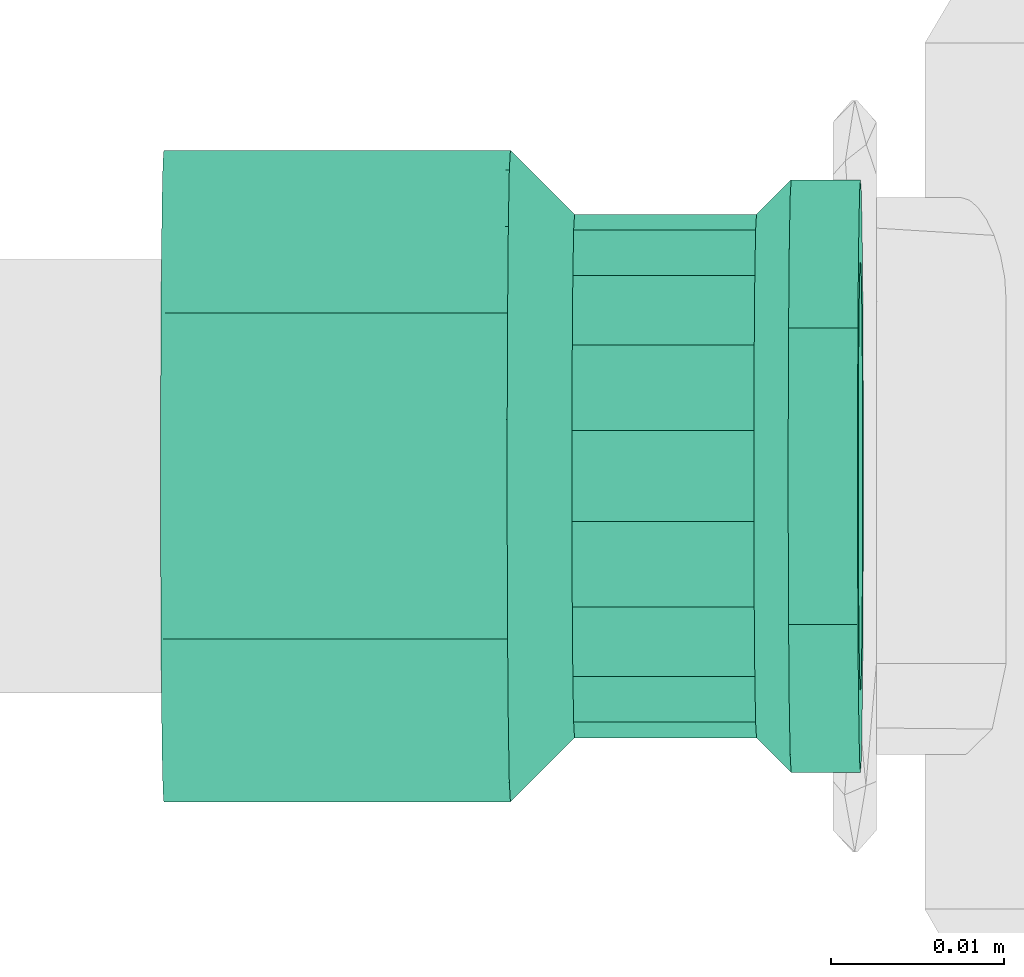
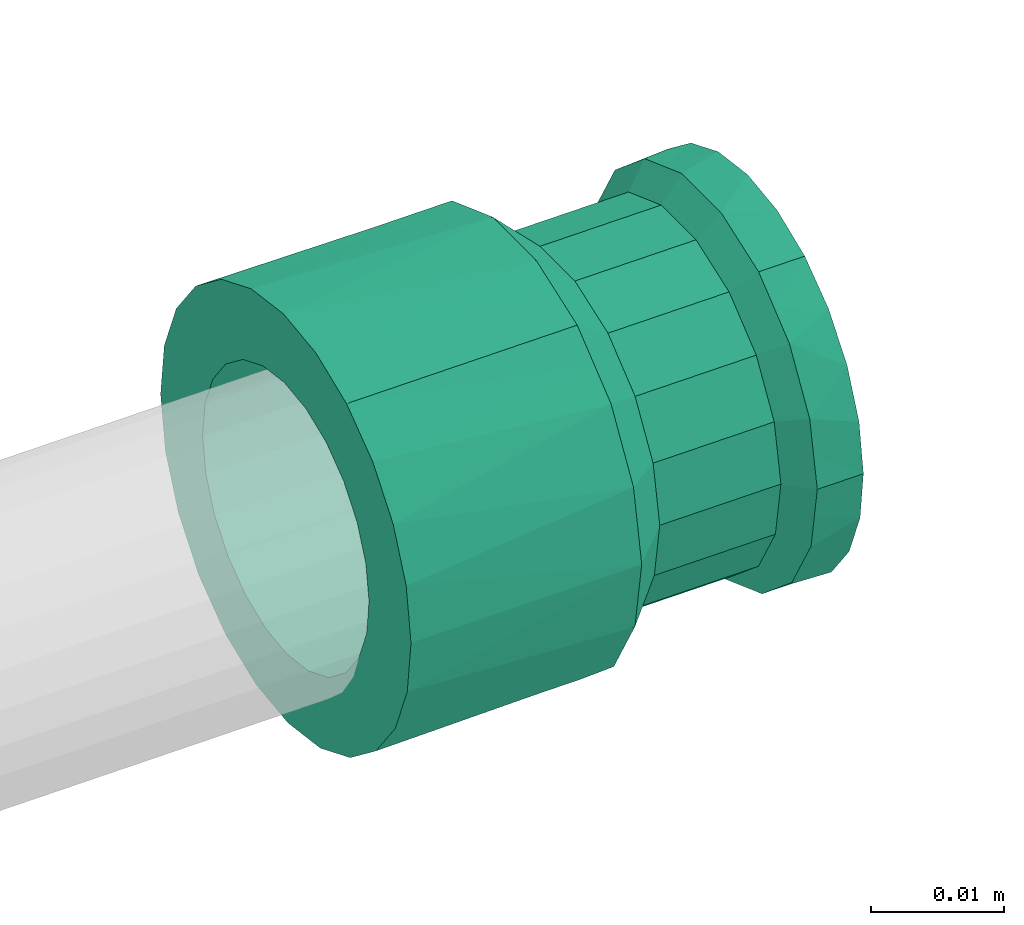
# One storey, part 389 of 589: 1 flow fitting.
"""IFC2X3 building model written with IfcOpenShell, lengths in millimetres."""

from ifc_helpers import new_model, entity, si_unit, converted_unit, derived_unit, direction, frame, origin, place, context, subcontext, project, spatial, faceted_brep, source, transform, mapped, material, type_object, type_shapes, element, save


model = new_model("IFC2X3")

# Units and contexts
model_context = context("Model", 3, precision=0.01, world=origin(), true_north=direction((6.123031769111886e-17, 1.0)))
body_context = subcontext(model_context, "Body", "Model", "MODEL_VIEW")
ifc_project = project(units=[si_unit("LENGTHUNIT", "METRE", prefix="MILLI"), si_unit("AREAUNIT", "SQUARE_METRE"), si_unit("VOLUMEUNIT", "CUBIC_METRE"), converted_unit("PLANEANGLEUNIT", "DEGREE", entity("IfcRatioMeasure", 0.017453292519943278), si_unit("PLANEANGLEUNIT", "RADIAN"), dimensions=[0, 0, 0, 0, 0, 0, 0]), si_unit("MASSUNIT", "GRAM", prefix="KILO"), derived_unit("MASSDENSITYUNIT", [(si_unit("MASSUNIT", "GRAM", prefix="KILO"), 1), (si_unit("LENGTHUNIT", "METRE"), -3)]), derived_unit("IONCONCENTRATIONUNIT", [(si_unit("MASSUNIT", "GRAM", prefix="KILO"), 1), (si_unit("LENGTHUNIT", "METRE"), -3)]), derived_unit("MOMENTOFINERTIAUNIT", [(si_unit("LENGTHUNIT", "METRE"), 4)]), si_unit("TIMEUNIT", "SECOND"), si_unit("FREQUENCYUNIT", "HERTZ"), si_unit("THERMODYNAMICTEMPERATUREUNIT", "DEGREE_CELSIUS"), derived_unit("THERMALTRANSMITTANCEUNIT", [(si_unit("MASSUNIT", "GRAM", prefix="KILO"), 1), (si_unit("THERMODYNAMICTEMPERATUREUNIT", "KELVIN"), -1), (si_unit("TIMEUNIT", "SECOND"), -3)]), derived_unit("THERMALCONDUCTANCEUNIT", [(si_unit("MASSUNIT", "GRAM", prefix="KILO"), 1), (si_unit("THERMODYNAMICTEMPERATUREUNIT", "KELVIN"), -1), (si_unit("TIMEUNIT", "SECOND"), -3), (si_unit("LENGTHUNIT", "METRE"), 1)]), derived_unit("VOLUMETRICFLOWRATEUNIT", [(si_unit("LENGTHUNIT", "METRE"), 3), (si_unit("TIMEUNIT", "SECOND"), -1)]), derived_unit("MASSFLOWRATEUNIT", [(si_unit("MASSUNIT", "GRAM", prefix="KILO"), 1), (si_unit("TIMEUNIT", "SECOND"), -1)]), derived_unit("ROTATIONALFREQUENCYUNIT", [(si_unit("TIMEUNIT", "SECOND"), -1)]), si_unit("ELECTRICCURRENTUNIT", "AMPERE"), si_unit("ELECTRICVOLTAGEUNIT", "VOLT"), si_unit("POWERUNIT", "WATT"), si_unit("FORCEUNIT", "NEWTON", prefix="KILO"), si_unit("ILLUMINANCEUNIT", "LUX"), si_unit("LUMINOUSFLUXUNIT", "LUMEN"), si_unit("LUMINOUSINTENSITYUNIT", "CANDELA"), derived_unit("USERDEFINED", [(si_unit("MASSUNIT", "GRAM", prefix="KILO"), -1), (si_unit("LENGTHUNIT", "METRE"), -2), (si_unit("TIMEUNIT", "SECOND"), 3), (si_unit("LUMINOUSFLUXUNIT", "LUMEN"), 1)]), derived_unit("USERDEFINED", [(si_unit("MASSUNIT", "GRAM", prefix="KILO"), 1), (si_unit("TIMEUNIT", "SECOND"), -3), (si_unit("LENGTHUNIT", "METRE"), 3), (si_unit("ELECTRICCURRENTUNIT", "AMPERE"), -2)]), derived_unit("SOUNDPOWERUNIT", [(si_unit("MASSUNIT", "GRAM", prefix="KILO"), 1), (si_unit("TIMEUNIT", "SECOND"), -3), (si_unit("LENGTHUNIT", "METRE"), 2)]), derived_unit("SOUNDPRESSUREUNIT", [(si_unit("MASSUNIT", "GRAM", prefix="KILO"), 1), (si_unit("LENGTHUNIT", "METRE"), -1), (si_unit("TIMEUNIT", "SECOND"), -2)]), derived_unit("LINEARVELOCITYUNIT", [(si_unit("LENGTHUNIT", "METRE"), 1), (si_unit("TIMEUNIT", "SECOND"), -1)]), si_unit("PRESSUREUNIT", "PASCAL"), derived_unit("USERDEFINED", [(si_unit("MASSUNIT", "GRAM", prefix="KILO"), 1), (si_unit("LENGTHUNIT", "METRE"), -2), (si_unit("TIMEUNIT", "SECOND"), -2)]), derived_unit("LINEARFORCEUNIT", [(si_unit("MASSUNIT", "GRAM", prefix="KILO"), 1), (si_unit("TIMEUNIT", "SECOND"), -2)]), derived_unit("PLANARFORCEUNIT", [(si_unit("MASSUNIT", "GRAM", prefix="KILO"), 1), (si_unit("LENGTHUNIT", "METRE"), -1), (si_unit("TIMEUNIT", "SECOND"), -2)]), derived_unit("SPECIFICHEATCAPACITYUNIT", [(si_unit("THERMODYNAMICTEMPERATUREUNIT", "KELVIN"), -1), (si_unit("LENGTHUNIT", "METRE"), 2), (si_unit("TIMEUNIT", "SECOND"), -2)]), derived_unit("HEATINGVALUEUNIT", [(si_unit("LENGTHUNIT", "METRE"), 2), (si_unit("TIMEUNIT", "SECOND"), -2)]), derived_unit("VAPORPERMEABILITYUNIT", [(si_unit("LENGTHUNIT", "METRE"), -1), (si_unit("TIMEUNIT", "SECOND"), 1)]), derived_unit("DYNAMICVISCOSITYUNIT", [(si_unit("MASSUNIT", "GRAM", prefix="KILO"), 1), (si_unit("TIMEUNIT", "SECOND"), -1), (si_unit("LENGTHUNIT", "METRE"), -1)]), derived_unit("THERMALEXPANSIONCOEFFICIENTUNIT", [(si_unit("THERMODYNAMICTEMPERATUREUNIT", "KELVIN"), -1)]), derived_unit("MODULUSOFELASTICITYUNIT", [(si_unit("MASSUNIT", "GRAM", prefix="KILO"), 1), (si_unit("LENGTHUNIT", "METRE"), -1), (si_unit("TIMEUNIT", "SECOND"), -2)]), derived_unit("ISOTHERMALMOISTURECAPACITYUNIT", [(si_unit("LENGTHUNIT", "METRE"), 3), (si_unit("MASSUNIT", "GRAM", prefix="KILO"), -1)]), derived_unit("MOISTUREDIFFUSIVITYUNIT", [(si_unit("TIMEUNIT", "SECOND"), -1), (si_unit("LENGTHUNIT", "METRE"), 2)])], contexts=[model_context])

# Site, building, storey
site_placement = place(None, origin())
site = spatial("IfcSite", under=ifc_project, at=site_placement, Name="Default", CompositionType="ELEMENT")
building_placement = place(site_placement, origin())
building = spatial("IfcBuilding", under=site, at=building_placement, CompositionType="ELEMENT")
storey_placement = place(building_placement, frame((0.0, 0.0, 100.0)))
storey = spatial("IfcBuildingStorey", under=building, at=storey_placement, Name="TÉRREO", CompositionType="ELEMENT", Elevation=100.0)

# Flow fitting
ifc_material = material(Name="PVC Azul")
pipe_fitting_type = type_object("IfcPipeFittingType", Name="Luva Soldavel com Bucha de Latao - Fortlev - AleBim:Standard", PredefinedType="NOTDEFINED", material=ifc_material)
shared_shape = source(origin(), body_context, "Body", "Brep", [
    faceted_brep([(0.0, -9.400000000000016, -16.28127759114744), (0.0, -13.2936074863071, -13.293607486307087), (0.0, -6.249999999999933, -10.825317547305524), (0.0, -3.235238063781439, -12.074072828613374), (0.0, -4.865798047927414, -18.15940553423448), (0.0, -8.838834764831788, -8.838834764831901), (0.0, -16.281277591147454, -9.399999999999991), (0.0, -10.82531754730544, -6.250000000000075), (0.0, -12.074072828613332, -3.2352380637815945), (0.0, -18.159405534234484, -4.865798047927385), (0.0, -12.5, 0.0), (0.0, -18.8, 0.0), (0.0, -12.074072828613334, 3.2352380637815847), (0.0, -18.159405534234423, 4.8657980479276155), (0.0, -10.825317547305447, 6.250000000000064), (0.0, -16.281277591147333, 9.400000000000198), (0.0, -8.838834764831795, 8.838834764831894), (0.0, -13.293607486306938, 13.29360748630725), (0.0, -6.249999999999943, 10.825317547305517), (0.0, -9.399999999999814, 16.281277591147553), (0.0, -3.23523806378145, 12.07407282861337), (0.0, -4.865798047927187, 18.159405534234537), (0.0, 0.0, 12.5), (0.0, 0.0, 18.8), (0.0, 3.2352380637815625, 12.074072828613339), (0.0, 4.865798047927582, 18.159405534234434), (0.0, 6.2500000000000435, 10.825317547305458), (0.0, 9.400000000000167, 16.28127759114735), (0.0, 8.838834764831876, 8.838834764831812), (0.0, 13.29360748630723, 13.293607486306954), (0.0, 10.825317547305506, 6.249999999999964), (0.0, 16.281277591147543, 9.399999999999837), (0.0, 18.159405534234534, 4.865798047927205), (0.0, 12.074072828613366, 3.2352380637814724), (0.0, 18.8, 0.0), (0.0, 12.5, 0.0), (0.0, 18.15940553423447, -4.865798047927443), (0.0, 12.074072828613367, -3.2352380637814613), (0.0, 16.281277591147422, -9.400000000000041), (0.0, 10.825317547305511, -6.249999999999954), (0.0, 13.293607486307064, -13.293607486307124), (0.0, 8.838834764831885, -8.838834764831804), (0.0, 9.399999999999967, -16.281277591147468), (0.0, 6.250000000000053, -10.825317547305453), (0.0, 4.86579804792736, -18.159405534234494), (0.0, 3.2352380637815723, -12.074072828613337), (0.0, 0.0, -18.8), (0.0, 0.0, -12.5), (20.0, 17.66604204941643, 6.4304710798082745), (20.0, 18.233021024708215, 3.2152355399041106), (20.0, 11.899800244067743, 14.183636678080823), (20.0, 14.400961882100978, 12.08520983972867), (20.0, 16.033501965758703, 9.257840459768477), (20.0, 6.330580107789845, 17.39840655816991), (20.0, 3.2625216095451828, 18.514749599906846), (20.0, 18.8, 0.0), (20.0, 9.398638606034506, 16.282063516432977), (20.0, -17.667654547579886, 6.4260394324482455), (20.0, -9.402722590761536, 16.279705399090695), (20.0, -6.334944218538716, 17.39681801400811), (20.0, -3.267165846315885, 18.513930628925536), (20.0, -14.403992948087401, 12.081597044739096), (20.0, -11.903357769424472, 14.180651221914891), (20.0, -18.8, 0.0), (20.0, -16.03582374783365, 9.253818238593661), (20.0, -0.0023221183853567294, 18.514340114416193), (20.0, -17.66765454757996, -6.426039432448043), (20.0, -11.903357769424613, -14.180651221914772), (20.0, -14.403992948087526, -12.081597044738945), (20.0, -16.035823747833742, -9.253818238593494), (20.0, -6.334944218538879, -17.39681801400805), (20.0, -3.2671658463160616, -18.513930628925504), (20.0, 18.233021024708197, -3.2152355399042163), (20.0, -9.402722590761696, -16.2797053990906), (20.0, 6.330580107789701, -17.398406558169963), (20.0, 3.2625216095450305, -18.514749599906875), (20.0, 9.398638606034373, -16.282063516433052), (20.0, 11.899800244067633, -14.183636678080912), (20.0, 17.66604204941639, -6.43047107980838), (20.0, 16.033501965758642, -9.257840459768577), (20.0, 14.400961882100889, -12.085209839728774), (20.0, -0.0023221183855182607, -18.51434011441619), (23.69999999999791, 14.19050976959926, 5.16134018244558), (23.699999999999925, 15.09999999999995, 0.0), (23.699999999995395, 5.088173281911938, 13.97297617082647), (23.699999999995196, 2.6241598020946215, 14.870231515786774), (23.699999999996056, 9.560675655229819, 11.38977837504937), (23.699999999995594, 7.552186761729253, 13.075720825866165), (23.699999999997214, 12.879837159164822, 7.432588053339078), (23.699999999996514, 11.569164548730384, 9.703835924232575), (23.699999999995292, 0.0018651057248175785, 14.870560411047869), (23.69999999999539, -2.620429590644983, 14.870889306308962), (23.699999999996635, -9.557818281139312, 11.392176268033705), (23.699999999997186, -11.566730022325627, 9.706737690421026), (23.699999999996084, -7.548906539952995, 13.077614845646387), (23.699999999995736, -5.084668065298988, 13.974252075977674), (23.699999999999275, -14.644607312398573, 2.582449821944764), (23.699999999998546, -14.189214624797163, 5.164899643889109), (23.700000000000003, -15.099999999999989, 0.0), (23.699999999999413, -14.732236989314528, 2.085517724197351), (23.699999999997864, -12.877972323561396, 7.4358186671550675), (23.699999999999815, -14.644607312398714, -2.582449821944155), (23.699999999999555, -14.18921462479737, -5.164899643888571), (23.699999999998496, -5.084668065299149, -13.97425207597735), (23.699999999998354, -2.620429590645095, -14.87088930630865), (23.69999999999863, -7.548906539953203, -13.077614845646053), (23.69999999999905, -11.566730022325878, -9.706737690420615), (23.69999999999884, -9.557818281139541, -11.392176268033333), (23.6999999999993, 14.190509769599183, -5.1613401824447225), (23.699999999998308, 0.0018651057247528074, -14.870560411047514), (23.699999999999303, -12.877972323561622, -7.435818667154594), (23.699999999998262, 2.6241598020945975, -14.870231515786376), (23.699999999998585, 9.56067565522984, -11.389778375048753), (23.699999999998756, 11.569164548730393, -9.703835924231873), (23.699999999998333, 5.088173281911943, -13.972976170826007), (23.69999999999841, 7.552186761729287, -13.075720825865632), (23.69999999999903, 12.879837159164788, -7.432588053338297), (34.20000000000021, -14.189214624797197, -5.164899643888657), (34.20000000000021, -14.73223698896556, -2.085517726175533), (34.20000000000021, -15.099999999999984, 0.0), (34.20000000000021, -9.55781828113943, -11.392176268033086), (34.20000000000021, -11.566730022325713, -9.706737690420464), (34.20000000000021, -7.548906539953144, -13.077614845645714), (34.20000000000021, -12.877972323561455, -7.43581866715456), (34.20000000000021, -2.620429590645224, -14.870889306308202), (34.20000000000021, -5.084668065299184, -13.974252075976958), (34.20000000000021, 2.6241598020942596, -14.870231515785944), (34.20000000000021, 0.0018651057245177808, -14.870560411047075), (34.20000000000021, 5.0881732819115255, -13.97297617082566), (34.20000000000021, 7.552186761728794, -13.075720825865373), (34.20000000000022, 11.56916454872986, -9.70383592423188), (34.200000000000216, 9.560675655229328, -11.389778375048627), (34.20000000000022, 12.879837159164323, -7.432588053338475), (34.20000000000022, 14.19050976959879, -5.161340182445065), (34.20000000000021, 15.100000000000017, 0.0), (34.199999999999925, 14.190509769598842, 5.161340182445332), (34.19999999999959, 7.552186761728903, 13.0757208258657), (34.199999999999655, 9.56067565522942, 11.389778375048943), (34.19999999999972, 11.569164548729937, 9.703835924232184), (34.199999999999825, 12.879837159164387, 7.432588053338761), (34.19999999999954, 2.624159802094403, 14.87023151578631), (34.19999999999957, 5.08817328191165, 13.972976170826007), (34.19999999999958, -2.6204295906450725, 14.870889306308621), (34.19999999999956, 0.0018651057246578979, 14.870560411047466), (34.199999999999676, -7.548906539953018, 13.077614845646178), (34.199999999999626, -5.084668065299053, 13.974252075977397), (34.20000000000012, -14.644607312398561, 2.582449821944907), (34.20000000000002, -14.18921462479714, 5.164899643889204), (34.199999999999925, -12.877972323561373, 7.435818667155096), (34.19999999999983, -11.566730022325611, 9.706737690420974), (34.199999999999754, -9.557818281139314, 11.392176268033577), (36.20000000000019, -17.099999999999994, 0.0), (36.20000000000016, -16.698266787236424, 2.2781566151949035), (36.199999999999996, -16.584290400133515, 2.9244961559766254), (36.200000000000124, -16.068580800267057, 5.848992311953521), (36.20000000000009, -14.583664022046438, 8.420695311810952), (36.20000000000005, -13.098747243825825, 10.992398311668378), (36.200000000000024, -10.823754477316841, 12.90107378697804), (36.2, -8.548761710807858, 14.809749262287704), (36.19999999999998, -5.758134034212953, 15.825146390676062), (36.19999999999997, -2.9675063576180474, 16.840543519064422), (36.19999999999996, 0.0021121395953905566, 16.84017106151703), (36.19999999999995, 2.9717306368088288, 16.839798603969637), (36.199999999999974, 8.55247639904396, 14.807604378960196), (36.19999999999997, 5.762103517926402, 15.823701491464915), (36.20000000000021, 17.100000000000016, 0.0), (36.2000000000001, 16.070047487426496, 5.844961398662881), (36.200000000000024, 13.101504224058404, 10.989112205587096), (36.20000000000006, 14.585775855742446, 8.417036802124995), (36.2, 10.826990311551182, 12.898358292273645), (36.20000000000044, 16.07004748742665, -5.844961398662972), (36.200000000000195, 0.0021121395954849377, -16.84017106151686), (36.20000000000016, -2.9675063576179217, -16.84054351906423), (36.20000000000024, 2.9717306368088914, -16.839798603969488), (36.200000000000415, 14.58577585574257, -8.417036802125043), (36.20000000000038, 13.10150422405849, -10.989112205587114), (36.20000000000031, 8.552476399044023, -14.807604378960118), (36.20000000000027, 5.7621035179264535, -15.823701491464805), (36.20000000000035, 10.826990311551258, -12.898358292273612), (36.20000000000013, -5.758134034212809, -15.825146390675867), (36.2000000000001, -8.548761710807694, -14.809749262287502), (36.200000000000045, -16.068580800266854, -5.848992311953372), (36.200000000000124, -16.58429040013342, -2.924496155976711), (36.20000000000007, -13.098747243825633, -10.992398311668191), (36.20000000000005, -14.583664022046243, -8.420695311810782), (36.20000000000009, -10.823754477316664, -12.901073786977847), (40.200000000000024, 8.550000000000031, -14.809034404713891), (40.200000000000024, 12.091525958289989, -12.091525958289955), (40.200000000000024, 6.2500000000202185, -10.825317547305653), (40.200000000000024, 3.2352380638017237, -12.074072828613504), (40.200000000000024, 4.425805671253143, -16.51733162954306), (40.200000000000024, 8.838834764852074, -8.838834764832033), (40.200000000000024, 14.809034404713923, -8.549999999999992), (40.200000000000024, 10.825317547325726, -6.250000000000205), (40.200000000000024, 12.074072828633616, -3.235238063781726), (40.200000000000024, 16.517331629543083, -4.4258056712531), (40.200000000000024, 12.500000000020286, 0.0), (40.200000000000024, 17.100000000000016, 0.0), (40.200000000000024, 12.074072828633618, 3.2352380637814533), (40.200000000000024, 16.51733162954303, 4.42580567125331), (40.200000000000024, 10.825317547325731, 6.2499999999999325), (40.200000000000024, 14.809034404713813, 8.550000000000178), (40.200000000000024, 8.83883476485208, 8.838834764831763), (40.200000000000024, 12.091525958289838, 12.091525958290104), (40.200000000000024, 6.250000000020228, 10.825317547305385), (40.200000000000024, 8.549999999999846, 14.809034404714), (40.200000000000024, 3.235238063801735, 12.074072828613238), (40.200000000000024, 4.425805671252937, 16.51733162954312), (40.200000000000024, 0.0, 12.49999999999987), (40.200000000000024, 0.0, 17.1), (40.200000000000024, -3.235238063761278, 12.07407282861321), (40.200000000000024, -4.425805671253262, 16.51733162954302), (40.200000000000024, -6.249999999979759, 10.825317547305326), (40.200000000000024, -8.550000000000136, 14.809034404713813), (40.200000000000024, -8.838834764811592, 8.838834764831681), (40.200000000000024, -12.091525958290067, 12.091525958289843), (40.200000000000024, -10.825317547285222, 6.249999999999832), (40.200000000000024, -14.809034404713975, 8.549999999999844), (40.200000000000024, -16.517331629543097, 4.425805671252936), (40.200000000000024, -12.07407282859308, 3.2352380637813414), (40.200000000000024, -17.099999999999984, 0.0), (40.200000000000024, -12.499999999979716, 0.0), (40.200000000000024, -16.517331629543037, -4.425805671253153), (40.200000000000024, -12.074072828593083, -3.2352380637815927), (40.200000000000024, -14.809034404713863, -8.550000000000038), (40.200000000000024, -10.825317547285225, -6.250000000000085), (40.200000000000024, -12.09152595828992, -12.09152595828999), (40.200000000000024, -8.838834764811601, -8.838834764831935), (40.200000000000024, -8.549999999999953, -14.80903440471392), (40.200000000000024, -6.249999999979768, -10.825317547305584), (40.200000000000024, -4.425805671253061, -16.517331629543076), (40.200000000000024, -3.2352380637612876, -12.074072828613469), (40.200000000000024, 0.0, -17.1), (40.200000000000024, 0.0, -12.500000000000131), (24.0, 3.23523806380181, -12.074072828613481), (24.0, 6.250000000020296, -10.825317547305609), (24.0, 8.838834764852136, -8.83883476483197), (24.0, 10.825317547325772, -6.250000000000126), (24.0, 12.07407282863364, -3.2352380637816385), (24.0, 12.500000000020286, 0.0), (24.0, 12.074072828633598, 3.235238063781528), (24.0, 10.825317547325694, 6.249999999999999), (24.0, 8.838834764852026, 8.838834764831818), (24.0, 6.250000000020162, 10.825317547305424), (24.0, 3.2352380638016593, 12.074072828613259), (24.0, 0.0, 12.49999999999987), (24.0, -3.235238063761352, 12.07407282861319), (24.0, -6.249999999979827, 10.82531754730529), (24.0, -8.83883476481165, 8.83883476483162), (24.0, -10.82531754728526, 6.24999999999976), (24.0, -12.074072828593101, 3.235238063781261), (24.0, -12.499999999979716, 0.0), (24.0, -12.07407282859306, -3.235238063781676), (24.0, -10.825317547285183, -6.250000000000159), (24.0, -8.838834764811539, -8.838834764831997), (24.0, -6.2499999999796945, -10.825317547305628), (24.0, -3.2352380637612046, -12.074072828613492), (24.0, 0.0, -12.500000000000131), (16.200000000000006, -12.074072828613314, 3.2352380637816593), (16.200000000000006, -12.5, 0.0), (16.200000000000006, -10.825317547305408, 6.250000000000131), (16.200000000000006, -8.838834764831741, 8.83883476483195), (16.200000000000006, -6.2499999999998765, 10.825317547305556), (16.200000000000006, -3.2352380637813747, 12.07407282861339), (16.200000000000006, 0.0, 12.5), (16.200000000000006, 6.250000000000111, 10.825317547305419), (16.200000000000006, 3.235238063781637, 12.074072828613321), (16.200000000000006, 8.838834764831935, 8.838834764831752), (16.200000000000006, 10.825317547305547, 6.249999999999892), (16.200000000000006, 12.074072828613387, 3.235238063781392), (16.200000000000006, 12.5, 0.0), (16.200000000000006, 12.074072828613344, -3.2352380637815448), (16.200000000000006, 10.825317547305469, -6.2500000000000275), (16.200000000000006, 8.838834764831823, -8.838834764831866), (16.200000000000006, 6.24999999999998, -10.825317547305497), (16.200000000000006, 3.2352380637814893, -12.07407282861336), (16.200000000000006, 0.0, -12.5), (16.200000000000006, -6.250000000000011, -10.82531754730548), (16.200000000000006, -3.2352380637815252, -12.07407282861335), (16.200000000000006, -8.83883476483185, -8.838834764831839), (16.200000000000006, -10.825317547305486, -6.249999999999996), (16.200000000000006, -12.074072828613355, -3.2352380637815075)], [[[0, 1, 2]], [[0, 2, 3]], [[3, 4, 0]], [[2, 1, 5]], [[6, 5, 1]], [[7, 5, 6]], [[8, 7, 6]], [[8, 6, 9]], [[8, 9, 10]], [[10, 9, 11]], [[12, 10, 11]], [[12, 11, 13]], [[14, 12, 13]], [[14, 13, 15]], [[16, 14, 15]], [[15, 17, 16]], [[17, 18, 16]], [[18, 17, 19]], [[18, 19, 20]], [[21, 20, 19]], [[20, 21, 22]], [[22, 21, 23]], [[23, 24, 22]], [[24, 23, 25]], [[24, 25, 26]], [[27, 26, 25]], [[27, 28, 26]], [[27, 29, 28]], [[30, 28, 29]], [[31, 30, 29]], [[32, 30, 31]], [[33, 30, 32]], [[33, 32, 34]], [[34, 35, 33]], [[36, 35, 34]], [[36, 37, 35]], [[37, 36, 38]], [[39, 37, 38]], [[39, 38, 40]], [[39, 40, 41]], [[40, 42, 41]], [[41, 42, 43]], [[43, 42, 44]], [[44, 45, 43]], [[46, 45, 44]], [[4, 47, 46]], [[45, 46, 47]], [[4, 3, 47]], [[32, 48, 49]], [[50, 51, 29]], [[52, 48, 31, 51]], [[53, 25, 54]], [[48, 32, 31]], [[34, 49, 55]], [[25, 53, 27]], [[27, 56, 50]], [[29, 51, 31]], [[13, 57, 15]], [[19, 58, 59]], [[53, 56, 27]], [[21, 19, 59]], [[54, 25, 23]], [[29, 27, 50]], [[59, 60, 21]], [[61, 62, 17]], [[63, 57, 13]], [[32, 49, 34]], [[64, 61, 15, 57]], [[11, 63, 13]], [[17, 62, 19]], [[65, 54, 23, 60]], [[61, 17, 15]], [[19, 62, 58]], [[21, 60, 23]], [[66, 63, 9]], [[67, 68, 1]], [[69, 66, 6, 68]], [[70, 4, 71]], [[66, 9, 6]], [[63, 11, 9]], [[1, 68, 6]], [[34, 55, 72]], [[70, 73, 0]], [[71, 4, 46]], [[74, 75, 44]], [[42, 76, 74]], [[42, 77, 76]], [[36, 78, 38]], [[38, 78, 79, 80]], [[36, 34, 72]], [[77, 40, 80]], [[72, 78, 36]], [[0, 73, 67]], [[81, 71, 46, 75]], [[1, 0, 67]], [[4, 70, 0]], [[80, 40, 38]], [[40, 77, 42]], [[44, 75, 46]], [[44, 42, 74]], [[82, 83, 49]], [[84, 53, 85]], [[86, 50, 87]], [[88, 52, 89]], [[53, 54, 85]], [[50, 56, 87]], [[49, 48, 82]], [[52, 51, 89]], [[87, 56, 84]], [[83, 55, 49]], [[88, 48, 52]], [[51, 50, 86]], [[85, 54, 90]], [[82, 48, 88]], [[56, 53, 84]], [[89, 51, 86]], [[65, 60, 91]], [[92, 62, 93]], [[59, 58, 94]], [[90, 65, 91]], [[95, 59, 94]], [[96, 97, 57]], [[63, 98, 99, 96]], [[64, 57, 97]], [[100, 64, 97]], [[62, 61, 93]], [[93, 61, 100]], [[59, 95, 60]], [[92, 58, 62]], [[61, 64, 100]], [[63, 96, 57]], [[94, 58, 92]], [[54, 65, 90]], [[91, 60, 95]], [[66, 101, 63]], [[98, 63, 101]], [[66, 102, 101]], [[103, 71, 104]], [[105, 73, 70]], [[106, 68, 67]], [[107, 73, 105]], [[102, 66, 69]], [[108, 78, 72]], [[70, 71, 103]], [[109, 104, 81]], [[69, 68, 110]], [[81, 75, 109]], [[110, 102, 69]], [[67, 73, 107]], [[107, 106, 67]], [[75, 111, 109]], [[112, 80, 113]], [[111, 75, 74]], [[110, 68, 106]], [[81, 104, 71]], [[114, 76, 115]], [[103, 105, 70]], [[113, 80, 79]], [[116, 78, 108]], [[115, 76, 77]], [[116, 113, 79]], [[79, 78, 116]], [[55, 83, 72]], [[77, 80, 112]], [[108, 72, 83]], [[112, 115, 77]], [[74, 76, 114]], [[114, 111, 74]], [[117, 118, 119, 98, 101, 102]], [[120, 121, 106, 107, 105, 122]], [[121, 123, 117, 102, 110, 106]], [[124, 125, 122, 105, 103, 104]], [[126, 127, 124, 104, 109, 111]], [[128, 126, 111, 114, 115, 129]], [[112, 113, 130, 131, 129, 115]], [[132, 130, 113, 116, 108, 133]], [[108, 83, 134, 133]], [[135, 134, 83, 82]], [[136, 137, 138, 89, 86, 87]], [[138, 139, 135, 82, 88, 89]], [[140, 141, 136, 87, 84, 85]], [[90, 91, 142, 143, 140, 85]], [[95, 94, 144, 145, 142, 91]], [[99, 98, 119, 146, 147, 97, 96]], [[148, 149, 93, 100, 97, 147]], [[92, 93, 149, 150, 144, 94]], [[147, 146, 119, 151, 152, 153, 154]], [[148, 147, 154, 155, 156, 149]], [[150, 149, 156, 157, 158, 144]], [[158, 159, 160, 142, 145, 144]], [[161, 162, 140, 143, 142, 160]], [[163, 136, 141, 140, 162, 164]], [[165, 134, 135, 166]], [[167, 168, 166, 135, 139, 138]], [[163, 169, 167, 138, 137, 136]], [[170, 133, 134, 165]], [[171, 172, 124, 127, 126, 173]], [[132, 133, 170, 174, 175, 130]], [[126, 128, 129, 176, 177, 173]], [[175, 178, 176, 129, 131, 130]], [[125, 124, 172, 179, 180, 122]], [[151, 119, 118, 117, 181, 182]], [[183, 184, 181, 117, 123, 121]], [[180, 185, 183, 121, 120, 122]], [[186, 187, 188]], [[186, 188, 189]], [[189, 190, 186]], [[188, 187, 191]], [[192, 191, 187]], [[193, 191, 192]], [[194, 193, 192]], [[194, 192, 195]], [[194, 195, 196]], [[196, 195, 197]], [[198, 196, 197]], [[198, 197, 199]], [[200, 198, 199]], [[200, 199, 201]], [[202, 200, 201]], [[201, 203, 202]], [[203, 204, 202]], [[204, 203, 205]], [[204, 205, 206]], [[207, 206, 205]], [[206, 207, 208]], [[208, 207, 209]], [[209, 210, 208]], [[210, 209, 211]], [[210, 211, 212]], [[213, 212, 211]], [[213, 214, 212]], [[213, 215, 214]], [[216, 214, 215]], [[217, 216, 215]], [[218, 216, 217]], [[219, 216, 218]], [[219, 218, 220]], [[220, 221, 219]], [[222, 221, 220]], [[222, 223, 221]], [[223, 222, 224]], [[225, 223, 224]], [[225, 224, 226]], [[225, 226, 227]], [[226, 228, 227]], [[227, 228, 229]], [[229, 228, 230]], [[230, 231, 229]], [[232, 231, 230]], [[190, 233, 232]], [[231, 232, 233]], [[190, 189, 233]], [[218, 154, 153]], [[157, 156, 215]], [[155, 154, 217, 156]], [[159, 211, 160]], [[154, 218, 217]], [[220, 153, 152, 151]], [[213, 158, 157]], [[215, 213, 157]], [[215, 156, 217]], [[205, 163, 164]], [[207, 205, 164]], [[159, 158, 213]], [[211, 159, 213]], [[160, 211, 209]], [[218, 153, 220]], [[164, 162, 207]], [[167, 169, 203]], [[165, 166, 199]], [[168, 167, 201, 166]], [[197, 165, 199]], [[203, 169, 205]], [[161, 160, 209, 162]], [[207, 162, 209]], [[167, 203, 201]], [[205, 169, 163]], [[199, 166, 201]], [[170, 165, 195]], [[178, 175, 187]], [[174, 170, 192, 175]], [[177, 190, 173]], [[170, 195, 192]], [[165, 197, 195]], [[190, 177, 186]], [[186, 176, 178]], [[187, 175, 192]], [[222, 220, 182]], [[228, 180, 179]], [[177, 176, 186]], [[230, 228, 179]], [[173, 190, 232]], [[187, 186, 178]], [[179, 172, 230]], [[183, 185, 226]], [[182, 181, 222]], [[184, 183, 224, 181]], [[222, 181, 224]], [[226, 185, 228]], [[171, 173, 232, 172]], [[230, 172, 232]], [[183, 226, 224]], [[228, 185, 180]], [[220, 151, 182]], [[234, 235, 236, 237, 238, 239, 240, 241, 242, 243, 244, 245, 246, 247, 248, 249, 250, 251, 252, 253, 254, 255, 256, 257]], [[250, 219, 221, 251]], [[12, 258, 259, 10]], [[249, 216, 219, 250]], [[14, 260, 258, 12]], [[214, 248, 247, 212]], [[261, 16, 18, 262]], [[249, 248, 214, 216]], [[261, 260, 14, 16]], [[212, 247, 246, 210]], [[262, 18, 20, 263]], [[210, 246, 245, 208]], [[20, 22, 264, 263]], [[243, 204, 206, 244]], [[26, 265, 266, 24]], [[242, 202, 204, 243]], [[28, 267, 265, 26]], [[200, 241, 240, 198]], [[268, 30, 33, 269]], [[242, 241, 200, 202]], [[268, 267, 28, 30]], [[198, 240, 239, 196]], [[269, 33, 35, 270]], [[206, 208, 245, 244]], [[24, 266, 264, 22]], [[238, 194, 196, 239]], [[37, 271, 270, 35]], [[237, 193, 194, 238]], [[39, 272, 271, 37]], [[191, 236, 235, 188]], [[273, 41, 43, 274]], [[237, 236, 191, 193]], [[273, 272, 39, 41]], [[188, 235, 234, 189]], [[274, 43, 45, 275]], [[189, 234, 257, 233]], [[45, 47, 276, 275]], [[255, 229, 231, 256]], [[2, 277, 278, 3]], [[254, 227, 229, 255]], [[5, 279, 277, 2]], [[225, 253, 252, 223]], [[280, 7, 8, 281]], [[254, 253, 225, 227]], [[280, 279, 5, 7]], [[223, 252, 251, 221]], [[281, 8, 10, 259]], [[231, 233, 257, 256]], [[3, 278, 276, 47]], [[278, 277, 279, 280, 281, 259, 258, 260, 261, 262, 263, 264, 266, 265, 267, 268, 269, 270, 271, 272, 273, 274, 275, 276]]]),
])
type_shapes(pipe_fitting_type, [shared_shape])
flow_fitting_placement = place(storey_placement, frame((-192.11591362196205, 1487.6480909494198, 2579.0375881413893), z_axis=(-0.009999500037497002, 0.0, 0.9999500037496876), x_axis=(0.9999500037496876, 0.0, 0.009999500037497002)))
element("IfcFlowFitting", 1, at=flow_fitting_placement, inside=storey, type_object=pipe_fitting_type, material=ifc_material, Name="Luva Soldavel com Bucha de Latao - Fortlev - AleBim:Standard", ObjectType="Luva Soldavel com Bucha de Latao - Fortlev - AleBim:Standard", context=body_context, shape_type="MappedRepresentation", body=[
    mapped(shared_shape, transform((0.0, 0.0, 0.0), scale=1.0)),
])

save(model, "model.ifc")
